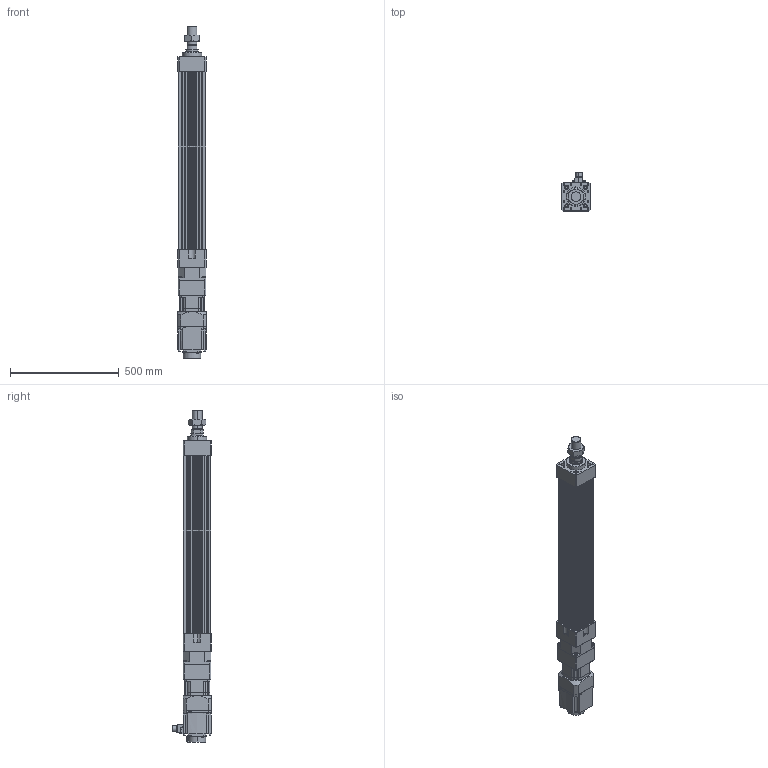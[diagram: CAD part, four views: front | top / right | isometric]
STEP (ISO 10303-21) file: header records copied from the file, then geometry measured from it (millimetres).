
FILE_DESCRIPTION (( 'STEP AP203' ), '1' );
FILE_NAME ('HES130NS(FS)(HS)-S600-W015G00-M.STEP', '2023-01-30T08:24:43', ( 'tms' ), ( '' ), 'SwSTEP 2.0', 'SolidWorks 2013', '' );
FILE_SCHEMA (( 'CONFIG_CONTROL_DESIGN' ));
Length unit declared in the file: millimetre
Products named in the file (8): HES130NS(FS)(HS)-S600-W015G00-M; M45X1.5P; HES130-S600-G120; HG-SR152; AB115-003[HG-SR152]; AB1151; P0401400706; HES130 ROD M ST600
Assembly tree (7 placements, depth 3):
  HES130NS(FS)(HS)-S600-W015G00-M
    HES130-S600-G120
    HES130 ROD M ST600
    M45X1.5P
    AB115-003[HG-SR152]
      AB1151
      P0401400706
    HG-SR152
Bounding box: 130 x 177.49 x 1529.5 mm (x, y, z)
Volume: 11965962.8 mm3; surface area: 1571848.7 mm2
Topology: 4 solids, 15 shells, 1220 faces, 3076 edges, 1983 vertices
Faces by surface type: cylinder 553, plane 551, cone 104, bspline 8, torus 4
Entity records: 38254 total; most frequent: CARTESIAN_POINT 7242, DIRECTION 6653, ORIENTED_EDGE 6060, EDGE_CURVE 3040, AXIS2_PLACEMENT_3D 2462, VERTEX_POINT 1983, VECTOR 1729, LINE 1729
